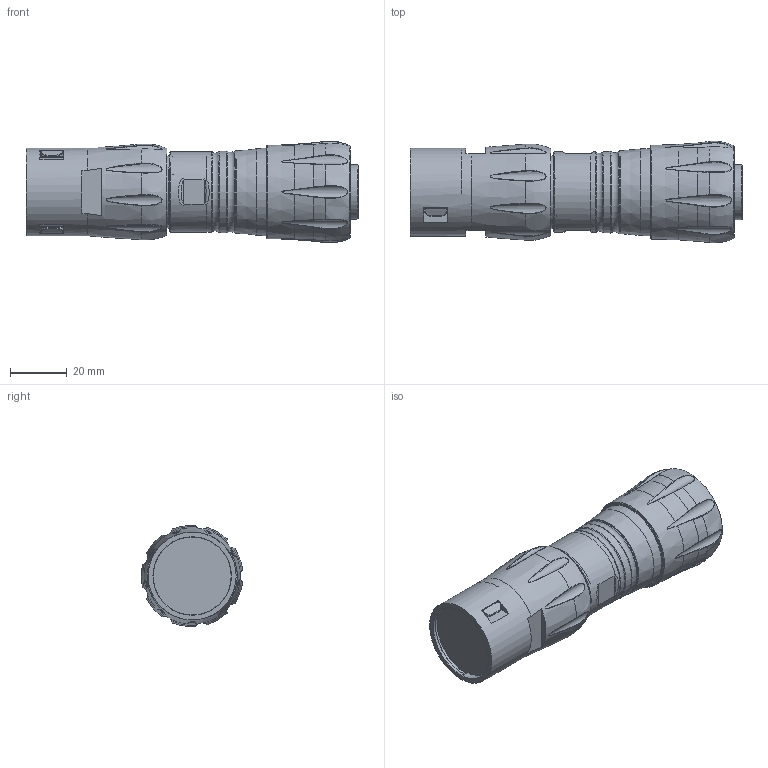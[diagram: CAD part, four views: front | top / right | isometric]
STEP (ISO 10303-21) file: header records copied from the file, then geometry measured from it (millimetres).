
FILE_DESCRIPTION(/* description */ (''),/* implementation_level */ '2;1');
FILE_NAME(/* name */ '99 6490 100 05 001_01-Kabeldose 4_PE.stp',/* time_stamp */ '2018-12-17T09:00:17+01:00',/* author */ (''),/* organization */ (''),/* preprocessor_version */ 'ST-DEVELOPER v16',/* originating_system */ 'SIEMENS PLM Software NX 11.0',/* authorisation */ '');
FILE_SCHEMA (('AUTOMOTIVE_DESIGN { 1 0 10303 214 3 1 1 1 }'));
Length unit declared in the file: millimetre
Products named in the file (1): rhen26B8269Dveza
Bounding box: 117.1 x 35.86 x 35.95 mm (x, y, z)
Volume: 84171.3 mm3; surface area: 17092 mm2
Topology: 1 solids, 1 shells, 404 faces, 993 edges, 609 vertices
Faces by surface type: cylinder 121, bspline 120, plane 103, torus 37, cone 23
Full cylindrical faces by diameter (mm): 5.35 x5, 19.4 x1, 25.7 x1, 27.7 x1, 28.1 x1, 28.4 x1, 30.8 x1, 31 x1
Entity records: 18752 total; most frequent: CARTESIAN_POINT 9854, ORIENTED_EDGE 1836, DIRECTION 1630, EDGE_CURVE 918, AXIS2_PLACEMENT_3D 667, VERTEX_POINT 574, EDGE_LOOP 462, ADVANCED_FACE 404
